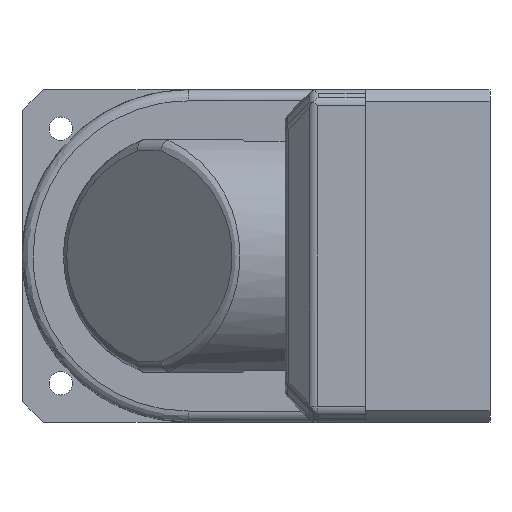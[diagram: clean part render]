
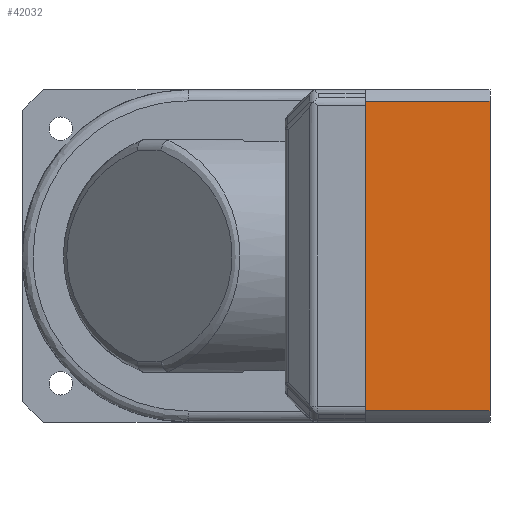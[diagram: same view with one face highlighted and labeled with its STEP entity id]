
A CAD part, front view. The second image highlights one B-rep face of the part: STEP entity #42032.
In plain terms, the highlighted planar face has unit normal (0, -1, 0).
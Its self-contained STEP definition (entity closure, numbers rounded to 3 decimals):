
#6045 = ORIENTED_EDGE ( 'NONE', *, *, #18857, .T. ) ;
#9081 = CARTESIAN_POINT ( 'NONE',  ( -60., -60., -45. ) ) ;
#10461 = CARTESIAN_POINT ( 'NONE',  ( 55.893, -60., 0. ) ) ;
#10486 = DIRECTION ( 'NONE',  ( 0., 0., -1. ) ) ;
#10748 = LINE ( 'NONE', #9081, #19583 ) ;
#12319 = LINE ( 'NONE', #31594, #22318 ) ;
#12796 = DIRECTION ( 'NONE',  ( -1., 0., 0. ) ) ;
#12812 = DIRECTION ( 'NONE',  ( 0., 0., 1. ) ) ;
#12891 = DIRECTION ( 'NONE',  ( 1., 0., 0. ) ) ;
#14132 = CARTESIAN_POINT ( 'NONE',  ( -60., -60., -45. ) ) ;
#14400 = VECTOR ( 'NONE', #12812, 1000. ) ;
#16517 = ORIENTED_EDGE ( 'NONE', *, *, #35548, .T. ) ;
#17162 = LINE ( 'NONE', #43622, #34834 ) ;
#17495 = ORIENTED_EDGE ( 'NONE', *, *, #37913, .T. ) ;
#17858 = FACE_OUTER_BOUND ( 'NONE', #28793, .T. ) ;
#18857 = EDGE_CURVE ( 'NONE', #22455, #47107, #12319, .T. ) ;
#19583 = VECTOR ( 'NONE', #12891, 1000. ) ;
#20696 = CARTESIAN_POINT ( 'NONE',  ( -55.893, -60., 0. ) ) ;
#21018 = AXIS2_PLACEMENT_3D ( 'NONE', #14132, #33086, #10486 ) ;
#22318 = VECTOR ( 'NONE', #12796, 1000. ) ;
#22437 = ORIENTED_EDGE ( 'NONE', *, *, #44779, .F. ) ;
#22455 = VERTEX_POINT ( 'NONE', #10461 ) ;
#25596 = LINE ( 'NONE', #46287, #14400 ) ;
#28793 = EDGE_LOOP ( 'NONE', ( #22437, #17495, #16517, #6045 ) ) ;
#31594 = CARTESIAN_POINT ( 'NONE',  ( 0., -60., 0. ) ) ;
#33086 = DIRECTION ( 'NONE',  ( 0., -1., 0. ) ) ;
#34834 = VECTOR ( 'NONE', #43785, 1000. ) ;
#35548 = EDGE_CURVE ( 'NONE', #42949, #22455, #25596, .T. ) ;
#37642 = CARTESIAN_POINT ( 'NONE',  ( -55.893, -60., -45. ) ) ;
#37913 = EDGE_CURVE ( 'NONE', #43529, #42949, #10748, .T. ) ;
#40529 = CARTESIAN_POINT ( 'NONE',  ( 55.893, -60., -45. ) ) ;
#42032 = ADVANCED_FACE ( 'NONE', ( #17858 ), #48094, .T. ) ;
#42949 = VERTEX_POINT ( 'NONE', #40529 ) ;
#43529 = VERTEX_POINT ( 'NONE', #37642 ) ;
#43622 = CARTESIAN_POINT ( 'NONE',  ( -55.893, -60., 0. ) ) ;
#43785 = DIRECTION ( 'NONE',  ( 0., 0., 1. ) ) ;
#44779 = EDGE_CURVE ( 'NONE', #43529, #47107, #17162, .T. ) ;
#46287 = CARTESIAN_POINT ( 'NONE',  ( 55.893, -60., -45. ) ) ;
#47107 = VERTEX_POINT ( 'NONE', #20696 ) ;
#48094 = PLANE ( 'NONE',  #21018 ) ;
